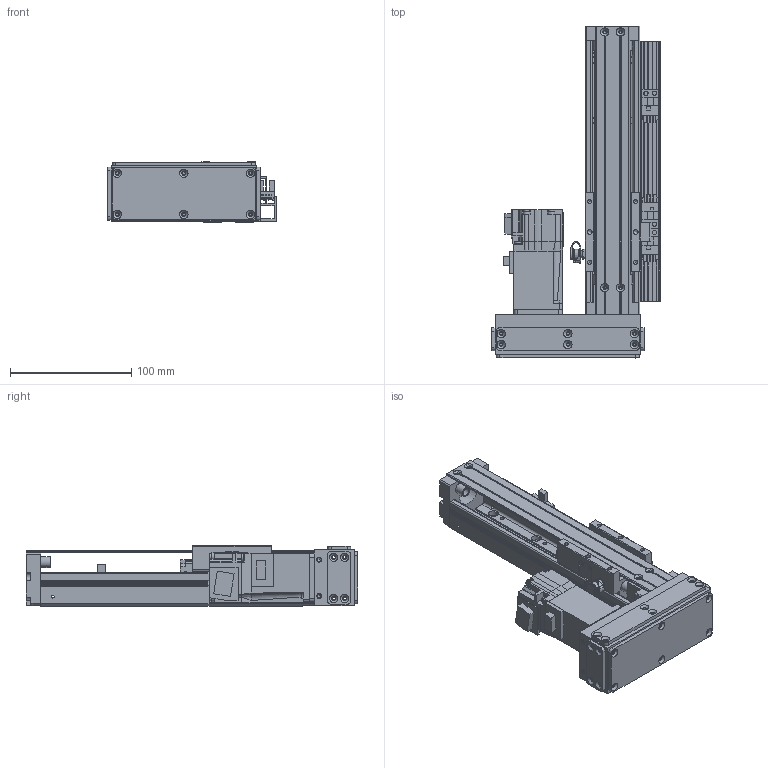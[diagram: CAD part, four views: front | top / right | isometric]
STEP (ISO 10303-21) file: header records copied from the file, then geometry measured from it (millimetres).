
FILE_DESCRIPTION(/* description */ ('MANUFACTURE'),/* implementation_level */ '2;1');
FILE_NAME(/* name */ '\\192.168.0.160\disk1\HAN SHIN Master\B-설계부문\C-표준\B-2024년\BC02-표준도면\+로봇 개선표준도면\표준 승인도 폴더 - 재작업\3D\HG45\병렬-L\HG45-L10-N-0100-R10.stp',/* time_stamp */ '2024-03-05T11:20:51+09:00',/* author */ ('User'),/* organization */ (''),/* preprocessor_version */ 'ST-DEVELOPER v18.1',/* originating_system */ 'Autodesk Inventor 2022',/* authorisation */ 'LIP');
FILE_SCHEMA (('AUTOMOTIVE_DESIGN { 1 0 10303 214 3 1 1 }'));
Products named in the file (21): HG45-L10-N-0500-R10 - 간소화; HR45 S BASE; HR45 REAR BLOCK; HR45 FRONT BLOCK; HR45 STOPPER; HR45 SENSOR RAIL; HR45 SENSOR DOG; HC45 - TABLE (SFSR); HR45 UPCOVER-28mm; NIPPLE CAP(신규); hsr_ftht_A-M6F_grease_nipple_joint; HR45 MOTOR PLATE 100W; HR45 L,R MOTOR PLATE; hg-kr13_; 화살표; HR45 LR BELT COVER; HR45 ACRYL COVER(정면); HR45 ACRYL COVER(측면); HR45 ACRYL COVER(상하면); EE_SX674A; ESF1210 NUT
Assembly tree (27 placements, depth 2):
  HG45-L10-N-0500-R10 - 간소화
    HR45 S BASE
    HR45 REAR BLOCK
    HR45 FRONT BLOCK
    HR45 STOPPER  x4
    HR45 SENSOR RAIL
    HR45 SENSOR DOG
    EE_SX674A  x3
    HC45 - TABLE (SFSR)
    HR45 UPCOVER-28mm
    NIPPLE CAP(신규)
    hsr_ftht_A-M6F_grease_nipple_joint
    HR45 MOTOR PLATE 100W
    HR45 L,R MOTOR PLATE
    hg-kr13_
    화살표  x2
    HR45 LR BELT COVER
    HR45 ACRYL COVER(상하면)  x2
    HR45 ACRYL COVER(정면)
    HR45 ACRYL COVER(측면)
    ESF1210 NUT
Bounding box: 139.5 x 274 x 50 mm (x, y, z)
Volume: 455995.6 mm3; surface area: 226943.2 mm2
Topology: 27 solids, 27 shells, 2300 faces, 6302 edges, 4144 vertices
Faces by surface type: plane 1652, cylinder 494, cone 127, bspline 13, sphere 8, torus 6
Full cylindrical faces by diameter (mm): 1 x1, 2.013 x6, 2.459 x74, 2.5 x4, 3 x11, 3.242 x18, 3.4 x36, 3.5 x21, 4 x13, 4.134 x1, 4.5 x12, 4.917 x2, 5.6 x3, 5.9 x2, 6 x20, 6.5 x6, 8 x7, 9 x4, 10 x1, 12 x1, 13 x1, 15 x1, 18 x1, 22 x2, 24 x1, 26 x1, 30 x2
Entity records: 70661 total; most frequent: CARTESIAN_POINT 13841, ORIENTED_EDGE 11724, DIRECTION 11124, EDGE_CURVE 5862, LINE 4650, VECTOR 4650, VERTEX_POINT 3897, AXIS2_PLACEMENT_3D 3237
